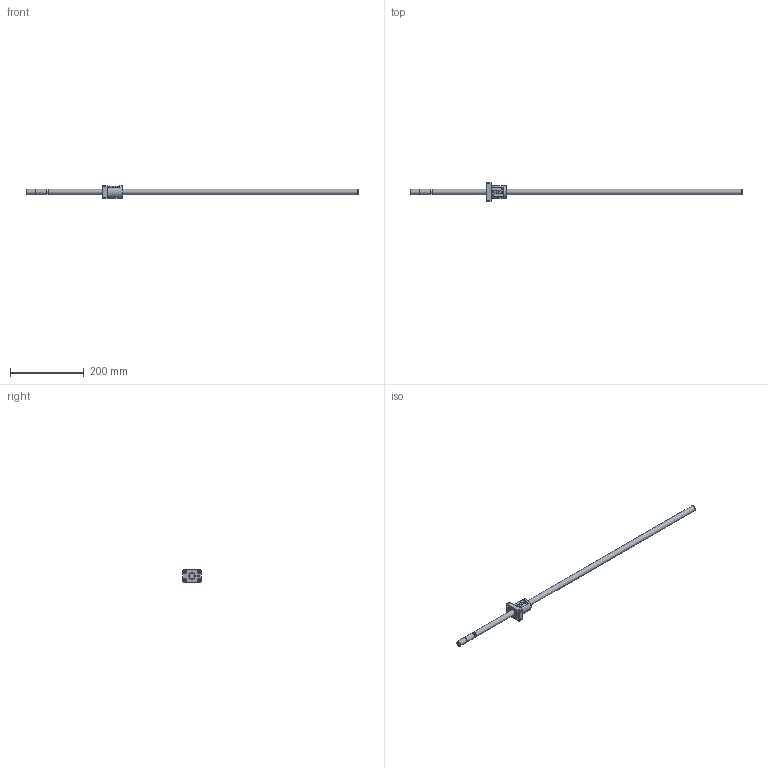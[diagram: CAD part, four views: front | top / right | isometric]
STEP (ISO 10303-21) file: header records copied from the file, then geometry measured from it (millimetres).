
FILE_DESCRIPTION (( 'STEP AP214' ), '1' );
FILE_NAME ('KBS(C)1515-900.STEP', '2021-07-05T02:15:04', ( '' ), ( '' ), 'SwSTEP 2.0', 'SolidWorks 2019', '' );
FILE_SCHEMA (( 'AUTOMOTIVE_DESIGN' ));
Length unit declared in the file: millimetre
Products named in the file (3): KBS(C)1515-900; KBS1515-900; KBS1515
Assembly tree (2 placements, depth 2):
  KBS(C)1515-900
    KBS1515-900
    KBS1515
Bounding box: 900 x 50 x 34 mm (x, y, z)
Volume: 201913.2 mm3; surface area: 56475 mm2
Topology: 2 solids, 2 shells, 103 faces, 259 edges, 171 vertices
Faces by surface type: plane 55, cylinder 40, cone 4, torus 4
Full cylindrical faces by diameter (mm): 3.2 x1, 5 x1, 5.5 x4, 5.6 x2, 9.5 x4, 12.5 x1, 14.5 x1, 15 x3, 17 x2, 34 x1
Entity records: 3297 total; most frequent: CARTESIAN_POINT 862, DIRECTION 464, ORIENTED_EDGE 448, EDGE_CURVE 224, AXIS2_PLACEMENT_3D 176, VERTEX_POINT 164, EDGE_LOOP 158, FACE_OUTER_BOUND 127
